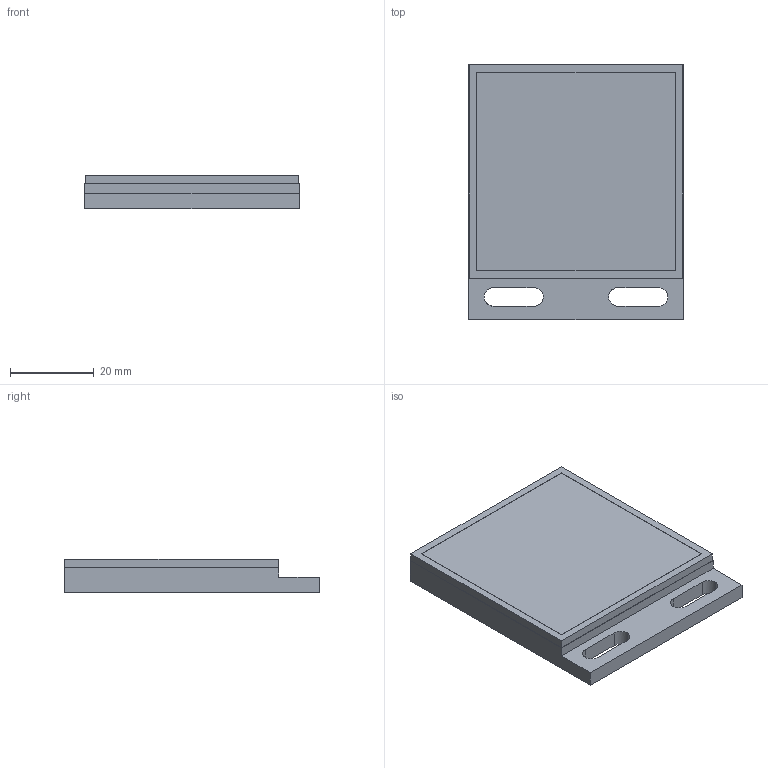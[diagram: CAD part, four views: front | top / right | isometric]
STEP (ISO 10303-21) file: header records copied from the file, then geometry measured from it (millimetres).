
FILE_DESCRIPTION( ('This file contains a STEP AP42 implementation' ,'as created by ZW3D STEP Interface translator.') ,'2;1' );
FILE_NAME( 'E500-12.stp' ,'18 816.12 850', (''), ('ZWCAD Software Co.'), 'Version 1.0', 'ZW3D to STEP translator', '' );
FILE_SCHEMA( ('CONFIG_CONTROL_DESIGN') );
Length unit declared in the file: millimetre
Products named in the file (1): 0
Bounding box: 51.3 x 61 x 8 mm (x, y, z)
Volume: 22221.2 mm3; surface area: 7997.4 mm2
Topology: 1 solids, 1 shells, 28 faces, 72 edges, 48 vertices
Faces by surface type: bspline 28
Entity records: 858 total; most frequent: CARTESIAN_POINT 363, ORIENTED_EDGE 144, EDGE_CURVE 72, B_SPLINE_CURVE_WITH_KNOTS 60, VERTEX_POINT 48, EDGE_LOOP 34, FACE_OUTER_BOUND 28, ADVANCED_FACE 28
